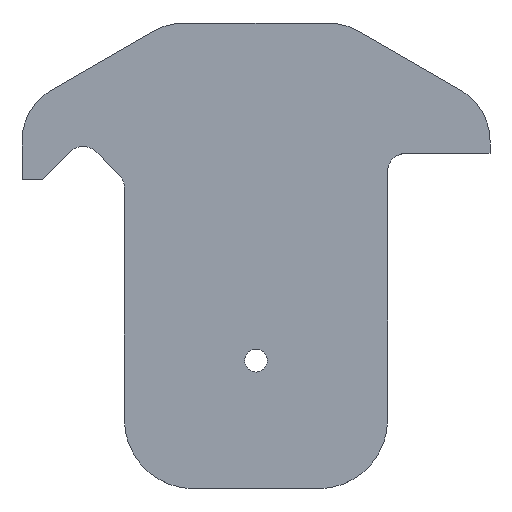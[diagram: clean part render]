
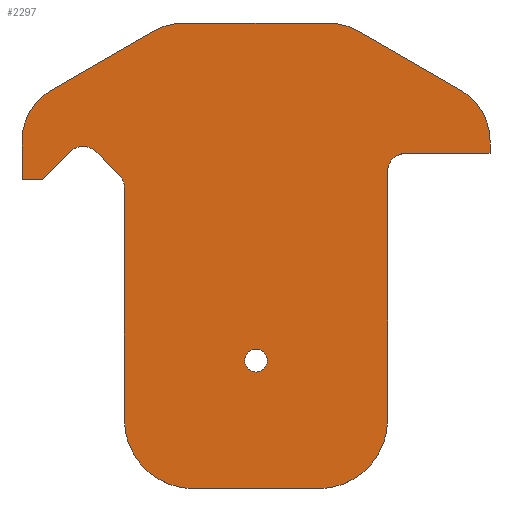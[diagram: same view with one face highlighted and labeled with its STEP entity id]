
A CAD part, top view. The second image highlights one B-rep face of the part: STEP entity #2297.
In plain terms, the highlighted planar face has unit normal (0, 0, 1).
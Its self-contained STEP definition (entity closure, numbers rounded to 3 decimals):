
#6=DIRECTION('',(-1.,0.,0.));
#7=VECTOR('',#6,1.761);
#8=CARTESIAN_POINT('',(-18.559,15.697,1.));
#9=LINE('',#8,#7);
#26=CARTESIAN_POINT('',(5.43,-5.131,1.));
#27=DIRECTION('',(0.,0.,1.));
#28=DIRECTION('',(0.,-1.,0.));
#29=AXIS2_PLACEMENT_3D('',#26,#27,#28);
#31=DIRECTION('',(-1.,0.,0.));
#32=VECTOR('',#31,10.86);
#33=CARTESIAN_POINT('',(5.43,-11.131,1.));
#34=LINE('',#33,#32);
#35=CARTESIAN_POINT('',(-5.43,-5.131,1.));
#36=DIRECTION('',(0.,0.,1.));
#37=DIRECTION('',(-1.,0.,0.));
#38=AXIS2_PLACEMENT_3D('',#35,#36,#37);
#40=DIRECTION('',(0.,1.,0.));
#41=VECTOR('',#40,5.056);
#42=CARTESIAN_POINT('',(-11.43,-5.131,1.));
#43=LINE('',#42,#41);
#44=CARTESIAN_POINT('',(-6.35,-0.051,1.));
#45=DIRECTION('',(0.,0.,1.));
#46=DIRECTION('',(-1.,0.,0.));
#47=AXIS2_PLACEMENT_3D('',#44,#45,#46);
#49=CARTESIAN_POINT('',(-13.005,15.037,1.));
#50=DIRECTION('',(0.,0.,-1.));
#51=DIRECTION('',(0.807,0.591,0.));
#52=AXIS2_PLACEMENT_3D('',#49,#50,#51);
#54=DIRECTION('',(0.707,-0.707,0.));
#55=VECTOR('',#54,3.06);
#56=CARTESIAN_POINT('',(-13.898,18.132,1.));
#57=LINE('',#56,#55);
#58=CARTESIAN_POINT('',(-15.011,17.018,1.));
#59=DIRECTION('',(0.,0.,-1.));
#60=DIRECTION('',(-0.707,0.707,0.));
#61=AXIS2_PLACEMENT_3D('',#58,#59,#60);
#63=DIRECTION('',(0.707,0.707,0.));
#64=VECTOR('',#63,3.443);
#65=CARTESIAN_POINT('',(-18.559,15.697,1.));
#66=LINE('',#65,#64);
#67=CARTESIAN_POINT('',(-15.24,19.074,1.));
#68=DIRECTION('',(0.,0.,1.));
#69=DIRECTION('',(-0.5,0.866,0.));
#70=AXIS2_PLACEMENT_3D('',#67,#68,#69);
#72=DIRECTION('',(-0.866,-0.5,0.));
#73=VECTOR('',#72,10.265);
#74=CARTESIAN_POINT('',(-8.89,28.606,1.));
#75=LINE('',#74,#73);
#76=CARTESIAN_POINT('',(-6.35,24.206,1.));
#77=DIRECTION('',(0.,0.,1.));
#78=DIRECTION('',(0.,1.,0.));
#79=AXIS2_PLACEMENT_3D('',#76,#77,#78);
#81=CARTESIAN_POINT('',(6.35,24.206,1.));
#82=DIRECTION('',(0.,0.,1.));
#83=DIRECTION('',(0.5,0.866,0.));
#84=AXIS2_PLACEMENT_3D('',#81,#82,#83);
#86=DIRECTION('',(-0.866,0.5,0.));
#87=VECTOR('',#86,10.265);
#88=CARTESIAN_POINT('',(17.78,23.473,1.));
#89=LINE('',#88,#87);
#90=CARTESIAN_POINT('',(15.24,19.074,1.));
#91=DIRECTION('',(0.,0.,1.));
#92=DIRECTION('',(1.,0.,0.));
#93=AXIS2_PLACEMENT_3D('',#90,#91,#92);
#95=CARTESIAN_POINT('',(13.005,16.408,1.));
#96=DIRECTION('',(0.,0.,-1.));
#97=DIRECTION('',(-1.,0.,0.));
#98=AXIS2_PLACEMENT_3D('',#95,#96,#97);
#100=CARTESIAN_POINT('',(6.35,-0.051,1.));
#101=DIRECTION('',(0.,0.,1.));
#102=DIRECTION('',(1.,-0.005,0.));
#103=AXIS2_PLACEMENT_3D('',#100,#101,#102);
#105=DIRECTION('',(0.,-1.,0.));
#106=VECTOR('',#105,5.056);
#107=CARTESIAN_POINT('',(11.43,-0.075,1.));
#108=LINE('',#107,#106);
#109=CARTESIAN_POINT('',(0.,0.,1.));
#110=DIRECTION('',(0.,0.,-1.));
#111=DIRECTION('',(-1.,0.,0.));
#112=AXIS2_PLACEMENT_3D('',#109,#110,#111);
#114=CARTESIAN_POINT('',(0.,0.,1.));
#115=DIRECTION('',(0.,0.,-1.));
#116=DIRECTION('',(1.,0.,0.));
#117=AXIS2_PLACEMENT_3D('',#114,#115,#116);
#780=DIRECTION('',(0.,1.,0.));
#781=VECTOR('',#780,15.088);
#782=CARTESIAN_POINT('',(-11.43,-0.051,1.));
#783=LINE('',#782,#781);
#1083=DIRECTION('',(0.,-1.,0.));
#1084=VECTOR('',#1083,16.459);
#1085=CARTESIAN_POINT('',(11.43,16.408,1.));
#1086=LINE('',#1085,#1084);
#1116=DIRECTION('',(-1.,0.,0.));
#1117=VECTOR('',#1116,7.315);
#1118=CARTESIAN_POINT('',(20.32,17.983,1.));
#1119=LINE('',#1118,#1117);
#1128=DIRECTION('',(0.,-1.,0.));
#1129=VECTOR('',#1128,1.09);
#1130=CARTESIAN_POINT('',(20.32,19.074,1.));
#1131=LINE('',#1130,#1129);
#1182=DIRECTION('',(1.,0.,0.));
#1183=VECTOR('',#1182,12.7);
#1184=CARTESIAN_POINT('',(-6.35,29.286,1.));
#1185=LINE('',#1184,#1183);
#1236=DIRECTION('',(0.,1.,0.));
#1237=VECTOR('',#1236,3.376);
#1238=CARTESIAN_POINT('',(-20.32,15.697,1.));
#1239=LINE('',#1238,#1237);
#2122=CARTESIAN_POINT('',(-18.559,15.697,1.));
#2123=CARTESIAN_POINT('',(-20.32,15.697,1.));
#2124=VERTEX_POINT('',#2122);
#2125=VERTEX_POINT('',#2123);
#2126=CARTESIAN_POINT('',(-6.35,29.286,1.));
#2127=CARTESIAN_POINT('',(6.35,29.286,1.));
#2128=VERTEX_POINT('',#2126);
#2129=VERTEX_POINT('',#2127);
#2130=CARTESIAN_POINT('',(-17.78,23.473,1.));
#2131=CARTESIAN_POINT('',(-20.32,19.074,1.));
#2132=VERTEX_POINT('',#2130);
#2133=VERTEX_POINT('',#2131);
#2134=CARTESIAN_POINT('',(11.43,16.408,1.));
#2135=CARTESIAN_POINT('',(13.005,17.983,1.));
#2136=VERTEX_POINT('',#2134);
#2137=VERTEX_POINT('',#2135);
#2138=CARTESIAN_POINT('',(8.89,28.606,1.));
#2139=VERTEX_POINT('',#2138);
#2140=CARTESIAN_POINT('',(-11.43,-0.051,1.));
#2141=CARTESIAN_POINT('',(-11.43,15.037,1.));
#2142=VERTEX_POINT('',#2140);
#2143=VERTEX_POINT('',#2141);
#2144=CARTESIAN_POINT('',(-11.734,15.968,1.));
#2145=VERTEX_POINT('',#2144);
#2146=CARTESIAN_POINT('',(20.32,17.983,1.));
#2147=VERTEX_POINT('',#2146);
#2148=CARTESIAN_POINT('',(-13.898,18.132,1.));
#2149=VERTEX_POINT('',#2148);
#2150=CARTESIAN_POINT('',(-16.125,18.132,1.));
#2151=VERTEX_POINT('',#2150);
#2152=CARTESIAN_POINT('',(-8.89,28.606,1.));
#2153=VERTEX_POINT('',#2152);
#2154=CARTESIAN_POINT('',(20.32,19.074,1.));
#2155=CARTESIAN_POINT('',(17.78,23.473,1.));
#2156=VERTEX_POINT('',#2154);
#2157=VERTEX_POINT('',#2155);
#2158=CARTESIAN_POINT('',(11.43,-0.051,1.));
#2159=VERTEX_POINT('',#2158);
#2160=CARTESIAN_POINT('',(-11.43,-0.075,1.));
#2161=VERTEX_POINT('',#2160);
#2162=CARTESIAN_POINT('',(11.43,-0.075,1.));
#2163=VERTEX_POINT('',#2162);
#2164=CARTESIAN_POINT('',(5.43,-11.131,1.));
#2165=CARTESIAN_POINT('',(11.43,-5.131,1.));
#2166=VERTEX_POINT('',#2164);
#2167=VERTEX_POINT('',#2165);
#2168=CARTESIAN_POINT('',(-11.43,-5.131,1.));
#2169=CARTESIAN_POINT('',(-5.43,-11.131,1.));
#2170=VERTEX_POINT('',#2168);
#2171=VERTEX_POINT('',#2169);
#2172=CARTESIAN_POINT('',(-1.,0.,1.));
#2173=CARTESIAN_POINT('',(1.,0.,1.));
#2174=VERTEX_POINT('',#2172);
#2175=VERTEX_POINT('',#2173);
#2236=CARTESIAN_POINT('',(-15.24,19.074,1.));
#2237=DIRECTION('',(0.,0.,1.));
#2238=DIRECTION('',(1.,0.,0.));
#2239=AXIS2_PLACEMENT_3D('',#2236,#2237,#2238);
#2240=PLANE('',#2239);
#2242=ORIENTED_EDGE('',*,*,#2241,.F.);
#2244=ORIENTED_EDGE('',*,*,#2243,.T.);
#2246=ORIENTED_EDGE('',*,*,#2245,.F.);
#2248=ORIENTED_EDGE('',*,*,#2247,.T.);
#2250=ORIENTED_EDGE('',*,*,#2249,.F.);
#2252=ORIENTED_EDGE('',*,*,#2251,.T.);
#2254=ORIENTED_EDGE('',*,*,#2253,.F.);
#2256=ORIENTED_EDGE('',*,*,#2255,.F.);
#2258=ORIENTED_EDGE('',*,*,#2257,.F.);
#2259=ORIENTED_EDGE('',*,*,#2229,.F.);
#2260=ORIENTED_EDGE('',*,*,#2185,.T.);
#2262=ORIENTED_EDGE('',*,*,#2261,.T.);
#2264=ORIENTED_EDGE('',*,*,#2263,.F.);
#2266=ORIENTED_EDGE('',*,*,#2265,.F.);
#2268=ORIENTED_EDGE('',*,*,#2267,.F.);
#2270=ORIENTED_EDGE('',*,*,#2269,.T.);
#2272=ORIENTED_EDGE('',*,*,#2271,.F.);
#2274=ORIENTED_EDGE('',*,*,#2273,.F.);
#2276=ORIENTED_EDGE('',*,*,#2275,.F.);
#2278=ORIENTED_EDGE('',*,*,#2277,.T.);
#2280=ORIENTED_EDGE('',*,*,#2279,.T.);
#2282=ORIENTED_EDGE('',*,*,#2281,.F.);
#2284=ORIENTED_EDGE('',*,*,#2283,.T.);
#2286=ORIENTED_EDGE('',*,*,#2285,.F.);
#2288=ORIENTED_EDGE('',*,*,#2287,.T.);
#2289=EDGE_LOOP('',(#2242,#2244,#2246,#2248,#2250,#2252,#2254,#2256,#2258,#2259,
#2260,#2262,#2264,#2266,#2268,#2270,#2272,#2274,#2276,#2278,#2280,#2282,#2284,
#2286,#2288));
#2290=FACE_OUTER_BOUND('',#2289,.F.);
#2292=ORIENTED_EDGE('',*,*,#2291,.F.);
#2294=ORIENTED_EDGE('',*,*,#2293,.F.);
#2295=EDGE_LOOP('',(#2292,#2294));
#2296=FACE_BOUND('',#2295,.F.);
#2297=ADVANCED_FACE('',(#2290,#2296),#2240,.T.);
#30=CIRCLE('',#29,6.);
#39=CIRCLE('',#38,6.);
#48=CIRCLE('',#47,5.08);
#53=CIRCLE('',#52,1.575);
#62=CIRCLE('',#61,1.575);
#71=CIRCLE('',#70,5.08);
#80=CIRCLE('',#79,5.08);
#85=CIRCLE('',#84,5.08);
#94=CIRCLE('',#93,5.08);
#99=CIRCLE('',#98,1.575);
#104=CIRCLE('',#103,5.08);
#113=CIRCLE('',#112,1.);
#118=CIRCLE('',#117,1.);
#2185=EDGE_CURVE('',#2124,#2125,#9,.T.);
#2229=EDGE_CURVE('',#2124,#2151,#66,.T.);
#2241=EDGE_CURVE('',#2166,#2167,#30,.T.);
#2243=EDGE_CURVE('',#2166,#2171,#34,.T.);
#2245=EDGE_CURVE('',#2170,#2171,#39,.T.);
#2247=EDGE_CURVE('',#2170,#2161,#43,.T.);
#2249=EDGE_CURVE('',#2142,#2161,#48,.T.);
#2251=EDGE_CURVE('',#2142,#2143,#783,.T.);
#2253=EDGE_CURVE('',#2145,#2143,#53,.T.);
#2255=EDGE_CURVE('',#2149,#2145,#57,.T.);
#2257=EDGE_CURVE('',#2151,#2149,#62,.T.);
#2261=EDGE_CURVE('',#2125,#2133,#1239,.T.);
#2263=EDGE_CURVE('',#2132,#2133,#71,.T.);
#2265=EDGE_CURVE('',#2153,#2132,#75,.T.);
#2267=EDGE_CURVE('',#2128,#2153,#80,.T.);
#2269=EDGE_CURVE('',#2128,#2129,#1185,.T.);
#2271=EDGE_CURVE('',#2139,#2129,#85,.T.);
#2273=EDGE_CURVE('',#2157,#2139,#89,.T.);
#2275=EDGE_CURVE('',#2156,#2157,#94,.T.);
#2277=EDGE_CURVE('',#2156,#2147,#1131,.T.);
#2279=EDGE_CURVE('',#2147,#2137,#1119,.T.);
#2281=EDGE_CURVE('',#2136,#2137,#99,.T.);
#2283=EDGE_CURVE('',#2136,#2159,#1086,.T.);
#2285=EDGE_CURVE('',#2163,#2159,#104,.T.);
#2287=EDGE_CURVE('',#2163,#2167,#108,.T.);
#2291=EDGE_CURVE('',#2174,#2175,#113,.T.);
#2293=EDGE_CURVE('',#2175,#2174,#118,.T.);
